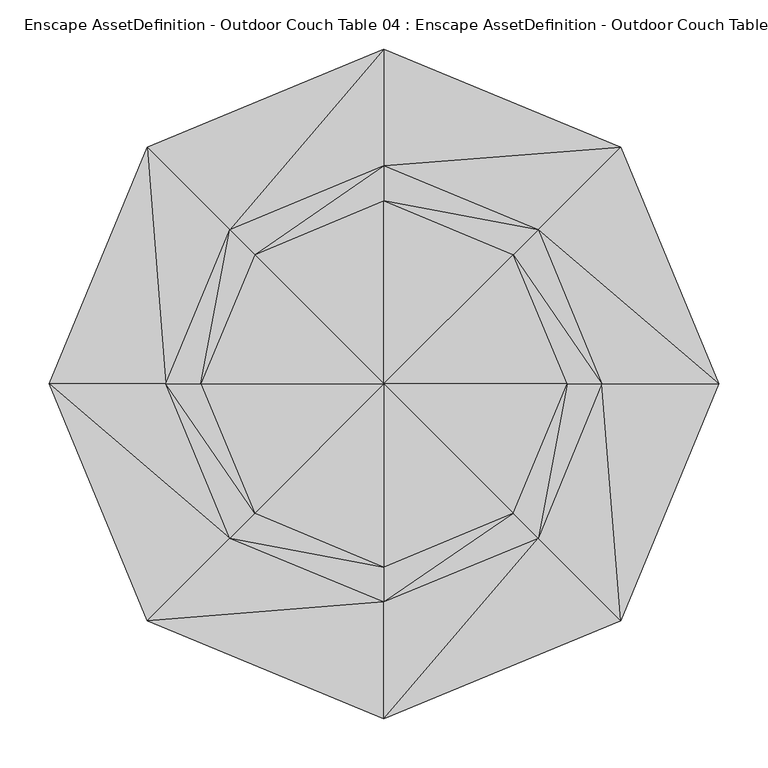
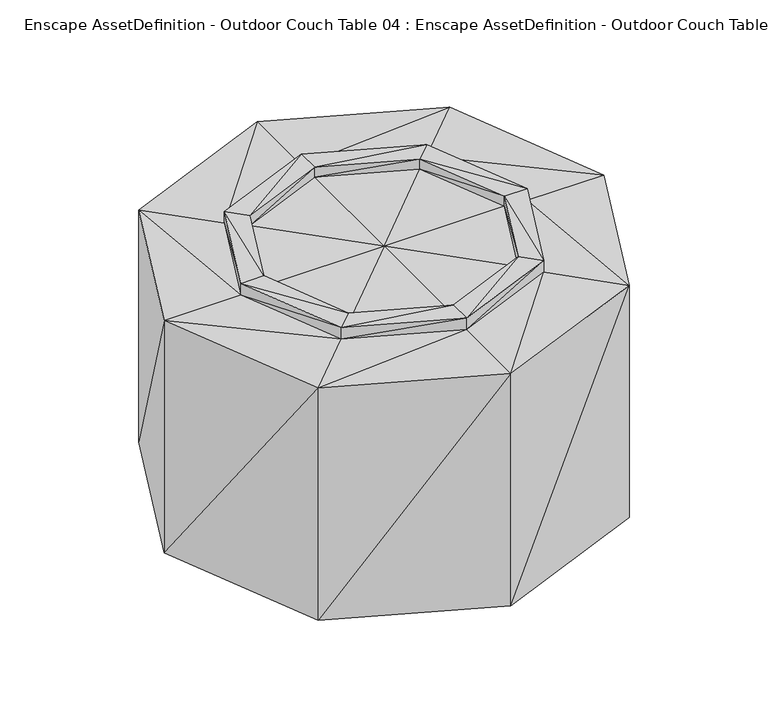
"""IFC4 building model written with IfcOpenShell, lengths in millimetres: geographic element geometry, Enscape AssetDefinition - Outdoor Couch Table 04 : Enscape AssetDefinition - Outdoor Couch Table 04."""

from ifc_helpers import new_model, si_unit, origin, place, context, project, spatial, faceted_brep, source, transform, mapped, element, save


def enscape_assetdefinition_outdoor_couch_table_04_enscape_5f19a239(model_context):
    return source(origin(), model_context, "Body", "Brep", [
        faceted_brep([(341.4305151, 4e-07, 381.4591169), (341.4305151, 0.0, 0.0), (241.4278239, 241.4278239, 381.4591169), (5e-07, -6.8e-06, 0.0), (241.4278239, 241.4278239, 0.0), (241.427809, -241.4278686, 0.0), (241.427809, -241.4278686, 381.4591169), (222.2673595, 2.3e-06, 381.4591169), (157.1667492, 157.1667492, 381.4591169), (4.1e-06, -341.4305151, 0.0), (4.1e-06, -341.4305151, 381.4591169), (157.1667343, -157.1667939, 381.4591169), (222.2673595, 2.3e-06, 400.7087648), (157.1667492, 157.1667492, 400.7087648), (4.1e-06, -222.2673595, 381.4591169), (157.1667343, -157.1667939, 400.7087648), (-241.427809, -241.4278686, 381.4591169), (-241.427809, -241.4278686, 0.0), (-341.4305151, -2.98e-05, 0.0), (-341.4305151, -2.95e-05, 381.4591169), (-157.1667343, -157.1667939, 381.4591169), (4.1e-06, -222.2673595, 400.7087648), (-222.2673595, -2.18e-05, 381.4591169), (-157.1667343, -157.1667939, 400.7087648), (-241.4278239, 241.4278239, 381.4591169), (-241.4278239, 241.4278239, 0.0), (-1.49e-05, 341.4305151, 0.0), (-1.49e-05, 341.4305151, 381.4591169), (-157.1667492, 157.1667492, 381.4591169), (-222.2673595, -2.18e-05, 400.7087648), (-9.2e-06, 222.2673595, 381.4591169), (-157.1667492, 157.1667492, 400.7087648), (-9.2e-06, 222.2673595, 400.7087648), (-131.9764704, 131.9764704, 400.7087648), (-186.642915, -1.88e-05, 400.7087648), (-131.9764555, -131.9765002, 400.7087648), (-186.642915, -1.88e-05, 384.0193152), (-131.9764555, -131.9765002, 384.0193152), (-8.9e-06, 186.642915, 400.7087648), (-131.9764704, 131.9764704, 384.0193152), (-2e-06, -6.8e-06, 384.0192854), (4.3e-06, -186.642915, 384.0193152), (4.3e-06, -186.642915, 400.7087648), (131.9764555, -131.9765002, 400.7087648), (131.9764555, -131.9765002, 384.0193152), (186.642915, 4.4e-06, 384.0193152), (186.642915, 4.4e-06, 400.7087648), (131.9764704, 131.9764704, 384.0193152), (131.9764704, 131.9764704, 400.7087648), (-8.9e-06, 186.642915, 384.0193152)], [[[0, 1, 2]], [[3, 4, 1]], [[3, 1, 5]], [[2, 1, 4]], [[0, 5, 1]], [[6, 5, 0]], [[7, 0, 8]], [[8, 0, 2]], [[7, 6, 0]], [[3, 5, 9]], [[6, 9, 5]], [[10, 9, 6]], [[11, 6, 7]], [[11, 10, 6]], [[12, 7, 13]], [[13, 7, 8]], [[12, 11, 7]], [[14, 10, 11]], [[15, 11, 12]], [[15, 14, 11]], [[16, 17, 10]], [[10, 17, 9]], [[14, 16, 10]], [[3, 9, 17]], [[3, 17, 18]], [[16, 18, 17]], [[19, 18, 16]], [[20, 16, 14]], [[20, 19, 16]], [[21, 14, 15]], [[21, 20, 14]], [[22, 19, 20]], [[23, 20, 21]], [[23, 22, 20]], [[24, 25, 19]], [[19, 25, 18]], [[22, 24, 19]], [[3, 18, 25]], [[3, 25, 26]], [[24, 26, 25]], [[3, 26, 4]], [[27, 26, 24]], [[27, 4, 26]], [[28, 24, 22]], [[28, 27, 24]], [[29, 22, 23]], [[29, 28, 22]], [[30, 27, 28]], [[31, 28, 29]], [[31, 30, 28]], [[2, 4, 27]], [[30, 2, 27]], [[8, 2, 30]], [[32, 30, 31]], [[32, 8, 30]], [[33, 31, 34]], [[33, 32, 31]], [[34, 31, 29]], [[34, 29, 35]], [[35, 29, 23]], [[36, 34, 37]], [[36, 33, 34]], [[37, 34, 35]], [[38, 32, 33]], [[39, 33, 36]], [[39, 38, 33]], [[40, 39, 36]], [[40, 36, 37]], [[37, 35, 41]], [[40, 37, 41]], [[35, 23, 42]], [[41, 35, 42]], [[42, 23, 21]], [[42, 21, 43]], [[41, 42, 44]], [[44, 42, 43]], [[40, 41, 44]], [[44, 43, 45]], [[40, 44, 45]], [[43, 15, 46]], [[43, 21, 15]], [[45, 43, 46]], [[45, 46, 47]], [[40, 45, 47]], [[46, 12, 48]], [[46, 15, 12]], [[47, 46, 48]], [[47, 48, 49]], [[40, 47, 49]], [[48, 13, 38]], [[48, 12, 13]], [[49, 48, 38]], [[49, 38, 39]], [[40, 49, 39]], [[38, 13, 32]], [[13, 8, 32]]]),
    ])


if __name__ == "__main__":
    model = new_model("IFC4")
    model_context = context("Model", 3, world=origin())
    ifc_project = project(units=[si_unit("LENGTHUNIT", "METRE", prefix="MILLI")], contexts=[model_context])
    site = spatial("IfcSite", under=ifc_project)
    building = spatial("IfcBuilding", under=site)
    placement = place(None, origin())
    enscape_assetdefinition_outdoor_couch_table_04_enscape_shape = enscape_assetdefinition_outdoor_couch_table_04_enscape_5f19a239(model_context)
    element("IfcGeographicElement", 1, ObjectType="Enscape AssetDefinition - Outdoor Couch Table 04 : Enscape AssetDefinition - Outdoor Couch Table 04", at=placement, inside=building, context=model_context, shape_type="MappedRepresentation", body=[
        mapped(enscape_assetdefinition_outdoor_couch_table_04_enscape_shape, transform((0.0, 0.0, 0.0), x_axis=(1.0, 0.0, 0.0), y_axis=(0.0, 1.0, 0.0), z_axis=(0.0, 0.0, 1.0))),
    ])
    save(model, "model.ifc")
